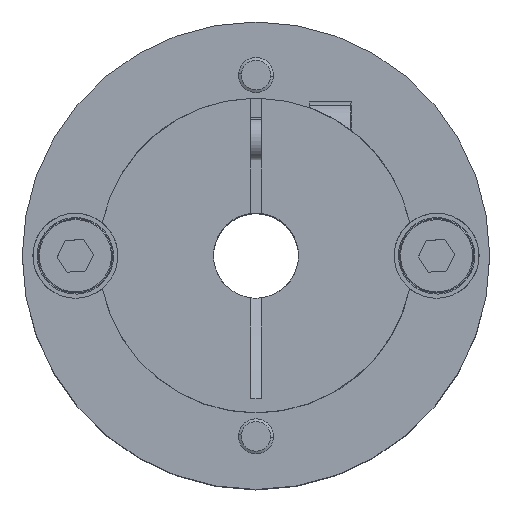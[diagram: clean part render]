
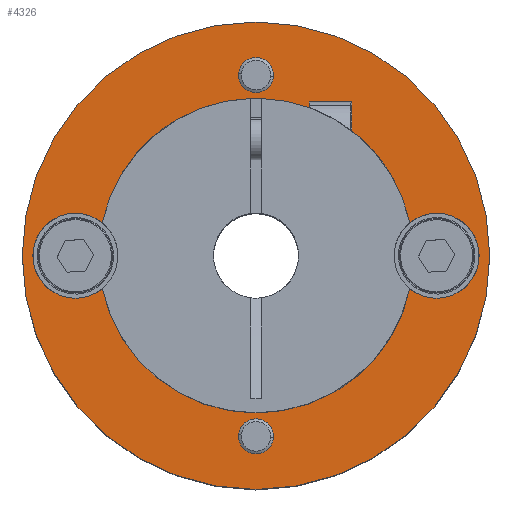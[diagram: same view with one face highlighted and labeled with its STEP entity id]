
A CAD part, top view. The second image highlights one B-rep face of the part: STEP entity #4326.
In plain terms, the highlighted planar face has unit normal (0, 0, 1).
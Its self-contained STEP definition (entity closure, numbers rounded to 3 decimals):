
#53 = CARTESIAN_POINT ( 'NONE',  ( 4.391, 31.75, 94.721 ) ) ;
#78 = VERTEX_POINT ( 'NONE', #3969 ) ;
#100 = ORIENTED_EDGE ( 'NONE', *, *, #4204, .T. ) ;
#202 = EDGE_CURVE ( 'NONE', #7104, #9742, #11148, .T. ) ;
#337 = ORIENTED_EDGE ( 'NONE', *, *, #10448, .F. ) ;
#519 = DIRECTION ( 'NONE',  ( -1., 0., 0. ) ) ;
#782 = CIRCLE ( 'NONE', #10220, 14.8 ) ;
#861 = CARTESIAN_POINT ( 'NONE',  ( 28.041, 48.75, 94.721 ) ) ;
#940 = EDGE_CURVE ( 'NONE', #5104, #19359, #2388, .T. ) ;
#1252 = CARTESIAN_POINT ( 'NONE',  ( 6.041, 65.75, 94.721 ) ) ;
#1469 = DIRECTION ( 'NONE',  ( 0., 0., 1. ) ) ;
#1595 = DIRECTION ( 'NONE',  ( -1., 0., 0. ) ) ;
#1643 = CARTESIAN_POINT ( 'NONE',  ( 7.691, 31.75, 94.721 ) ) ;
#1831 = CIRCLE ( 'NONE', #9928, 1.65 ) ;
#2318 = DIRECTION ( 'NONE',  ( -1., 0., 0. ) ) ;
#2322 = DIRECTION ( 'NONE',  ( 0., 0., 1. ) ) ;
#2371 = CARTESIAN_POINT ( 'NONE',  ( 6.041, 31.75, 94.721 ) ) ;
#2388 = CIRCLE ( 'NONE', #5213, 4. ) ;
#2439 = CIRCLE ( 'NONE', #16624, 22. ) ;
#3250 = DIRECTION ( 'NONE',  ( 0., 0., 1. ) ) ;
#3307 = AXIS2_PLACEMENT_3D ( 'NONE', #12497, #3250, #14032 ) ;
#3310 = CARTESIAN_POINT ( 'NONE',  ( -10.959, 48.75, 94.721 ) ) ;
#3336 = EDGE_CURVE ( 'NONE', #14017, #13761, #8579, .T. ) ;
#3728 = CARTESIAN_POINT ( 'NONE',  ( 6.041, 65.75, 94.721 ) ) ;
#3951 = EDGE_CURVE ( 'NONE', #7475, #7713, #13607, .T. ) ;
#3969 = CARTESIAN_POINT ( 'NONE',  ( 20.513, 45.65, 94.721 ) ) ;
#4204 = EDGE_CURVE ( 'NONE', #10569, #13695, #2439, .T. ) ;
#4326 = ADVANCED_FACE ( 'NONE', ( #19104, #7537, #15188, #19584 ), #17258, .T. ) ;
#4875 = DIRECTION ( 'NONE',  ( -1., 0., 0. ) ) ;
#5011 = CARTESIAN_POINT ( 'NONE',  ( 6.041, 48.75, 94.721 ) ) ;
#5104 = VERTEX_POINT ( 'NONE', #5497 ) ;
#5213 = AXIS2_PLACEMENT_3D ( 'NONE', #18457, #18437, #18413 ) ;
#5271 = DIRECTION ( 'NONE',  ( -1., 0., 0. ) ) ;
#5405 = AXIS2_PLACEMENT_3D ( 'NONE', #3310, #14100, #4875 ) ;
#5497 = CARTESIAN_POINT ( 'NONE',  ( -8.43, 51.85, 94.721 ) ) ;
#5502 = CARTESIAN_POINT ( 'NONE',  ( 6.041, 48.75, 94.721 ) ) ;
#6177 = DIRECTION ( 'NONE',  ( 0., 0., 1. ) ) ;
#6229 = EDGE_CURVE ( 'NONE', #7713, #5104, #782, .T. ) ;
#6260 = CIRCLE ( 'NONE', #5405, 4. ) ;
#6520 = ORIENTED_EDGE ( 'NONE', *, *, #10109, .T. ) ;
#6571 = DIRECTION ( 'NONE',  ( -1., 0., 0. ) ) ;
#6937 = AXIS2_PLACEMENT_3D ( 'NONE', #18899, #9899, #519 ) ;
#7036 = DIRECTION ( 'NONE',  ( -1., 0., 0. ) ) ;
#7104 = VERTEX_POINT ( 'NONE', #1643 ) ;
#7139 = AXIS2_PLACEMENT_3D ( 'NONE', #2371, #2322, #2318 ) ;
#7252 = ORIENTED_EDGE ( 'NONE', *, *, #10383, .F. ) ;
#7341 = CARTESIAN_POINT ( 'NONE',  ( 27.041, 48.75, 94.721 ) ) ;
#7475 = VERTEX_POINT ( 'NONE', #7341 ) ;
#7537 = FACE_BOUND ( 'NONE', #16666, .T. ) ;
#7628 = EDGE_CURVE ( 'NONE', #12214, #78, #10698, .T. ) ;
#7713 = VERTEX_POINT ( 'NONE', #14894 ) ;
#8579 = CIRCLE ( 'NONE', #16806, 1.65 ) ;
#9175 = AXIS2_PLACEMENT_3D ( 'NONE', #3728, #14491, #5271 ) ;
#9742 = VERTEX_POINT ( 'NONE', #53 ) ;
#9774 = AXIS2_PLACEMENT_3D ( 'NONE', #16580, #16557, #16539 ) ;
#9842 = CARTESIAN_POINT ( 'NONE',  ( -14.959, 48.75, 94.721 ) ) ;
#9899 = DIRECTION ( 'NONE',  ( 0., 0., 1. ) ) ;
#9901 = ORIENTED_EDGE ( 'NONE', *, *, #940, .F. ) ;
#9928 = AXIS2_PLACEMENT_3D ( 'NONE', #15353, #6177, #16837 ) ;
#10109 = EDGE_CURVE ( 'NONE', #13695, #10569, #18627, .T. ) ;
#10220 = AXIS2_PLACEMENT_3D ( 'NONE', #5502, #16193, #7036 ) ;
#10348 = EDGE_CURVE ( 'NONE', #9742, #7104, #1831, .T. ) ;
#10383 = EDGE_CURVE ( 'NONE', #78, #7475, #18354, .T. ) ;
#10448 = EDGE_CURVE ( 'NONE', #19359, #12214, #6260, .T. ) ;
#10569 = VERTEX_POINT ( 'NONE', #18801 ) ;
#10580 = CARTESIAN_POINT ( 'NONE',  ( 7.691, 65.75, 94.721 ) ) ;
#10582 = EDGE_CURVE ( 'NONE', #13761, #14017, #18796, .T. ) ;
#10698 = CIRCLE ( 'NONE', #14912, 14.8 ) ;
#10888 = ORIENTED_EDGE ( 'NONE', *, *, #7628, .F. ) ;
#11148 = CIRCLE ( 'NONE', #7139, 1.65 ) ;
#11168 = DIRECTION ( 'NONE',  ( 0., 0., 1. ) ) ;
#11221 = DIRECTION ( 'NONE',  ( -1., 0., 0. ) ) ;
#11352 = ORIENTED_EDGE ( 'NONE', *, *, #3951, .F. ) ;
#11594 = CARTESIAN_POINT ( 'NONE',  ( 23.041, 48.75, 94.721 ) ) ;
#12214 = VERTEX_POINT ( 'NONE', #13593 ) ;
#12497 = CARTESIAN_POINT ( 'NONE',  ( 23.041, 48.75, 94.721 ) ) ;
#13507 = ORIENTED_EDGE ( 'NONE', *, *, #6229, .F. ) ;
#13593 = CARTESIAN_POINT ( 'NONE',  ( -8.43, 45.65, 94.721 ) ) ;
#13607 = CIRCLE ( 'NONE', #16371, 4. ) ;
#13695 = VERTEX_POINT ( 'NONE', #861 ) ;
#13756 = ORIENTED_EDGE ( 'NONE', *, *, #3336, .F. ) ;
#13761 = VERTEX_POINT ( 'NONE', #17864 ) ;
#14017 = VERTEX_POINT ( 'NONE', #10580 ) ;
#14032 = DIRECTION ( 'NONE',  ( -1., 0., 0. ) ) ;
#14100 = DIRECTION ( 'NONE',  ( 0., 0., 1. ) ) ;
#14491 = DIRECTION ( 'NONE',  ( 0., 0., 1. ) ) ;
#14894 = CARTESIAN_POINT ( 'NONE',  ( 20.513, 51.85, 94.721 ) ) ;
#14912 = AXIS2_PLACEMENT_3D ( 'NONE', #5011, #15738, #6571 ) ;
#15139 = ORIENTED_EDGE ( 'NONE', *, *, #202, .F. ) ;
#15188 = FACE_BOUND ( 'NONE', #15451, .T. ) ;
#15234 = EDGE_LOOP ( 'NONE', ( #19537, #15139 ) ) ;
#15353 = CARTESIAN_POINT ( 'NONE',  ( 6.041, 31.75, 94.721 ) ) ;
#15451 = EDGE_LOOP ( 'NONE', ( #16774, #13756 ) ) ;
#15738 = DIRECTION ( 'NONE',  ( 0., 0., 1. ) ) ;
#16193 = DIRECTION ( 'NONE',  ( 0., 0., 1. ) ) ;
#16371 = AXIS2_PLACEMENT_3D ( 'NONE', #11594, #11168, #11221 ) ;
#16539 = DIRECTION ( 'NONE',  ( -1., 0., 0. ) ) ;
#16557 = DIRECTION ( 'NONE',  ( 0., 0., 1. ) ) ;
#16580 = CARTESIAN_POINT ( 'NONE',  ( 6.041, 48.75, 94.721 ) ) ;
#16624 = AXIS2_PLACEMENT_3D ( 'NONE', #18866, #18816, #18809 ) ;
#16666 = EDGE_LOOP ( 'NONE', ( #9901, #13507, #11352, #7252, #10888, #337 ) ) ;
#16774 = ORIENTED_EDGE ( 'NONE', *, *, #10582, .F. ) ;
#16806 = AXIS2_PLACEMENT_3D ( 'NONE', #1252, #1469, #1595 ) ;
#16837 = DIRECTION ( 'NONE',  ( -1., 0., 0. ) ) ;
#16994 = EDGE_LOOP ( 'NONE', ( #6520, #100 ) ) ;
#17258 = PLANE ( 'NONE',  #9774 ) ;
#17864 = CARTESIAN_POINT ( 'NONE',  ( 4.391, 65.75, 94.721 ) ) ;
#18354 = CIRCLE ( 'NONE', #3307, 4. ) ;
#18413 = DIRECTION ( 'NONE',  ( -1., 0., 0. ) ) ;
#18437 = DIRECTION ( 'NONE',  ( 0., 0., 1. ) ) ;
#18457 = CARTESIAN_POINT ( 'NONE',  ( -10.959, 48.75, 94.721 ) ) ;
#18627 = CIRCLE ( 'NONE', #6937, 22. ) ;
#18796 = CIRCLE ( 'NONE', #9175, 1.65 ) ;
#18801 = CARTESIAN_POINT ( 'NONE',  ( -15.959, 48.75, 94.721 ) ) ;
#18809 = DIRECTION ( 'NONE',  ( -1., 0., 0. ) ) ;
#18816 = DIRECTION ( 'NONE',  ( 0., 0., 1. ) ) ;
#18866 = CARTESIAN_POINT ( 'NONE',  ( 6.041, 48.75, 94.721 ) ) ;
#18899 = CARTESIAN_POINT ( 'NONE',  ( 6.041, 48.75, 94.721 ) ) ;
#19104 = FACE_BOUND ( 'NONE', #15234, .T. ) ;
#19359 = VERTEX_POINT ( 'NONE', #9842 ) ;
#19537 = ORIENTED_EDGE ( 'NONE', *, *, #10348, .F. ) ;
#19584 = FACE_OUTER_BOUND ( 'NONE', #16994, .T. ) ;
